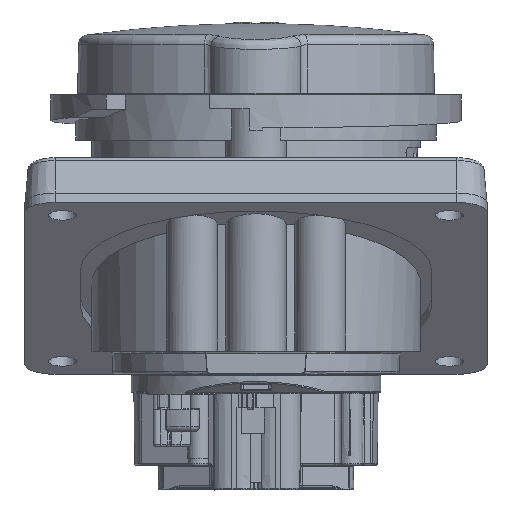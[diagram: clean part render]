
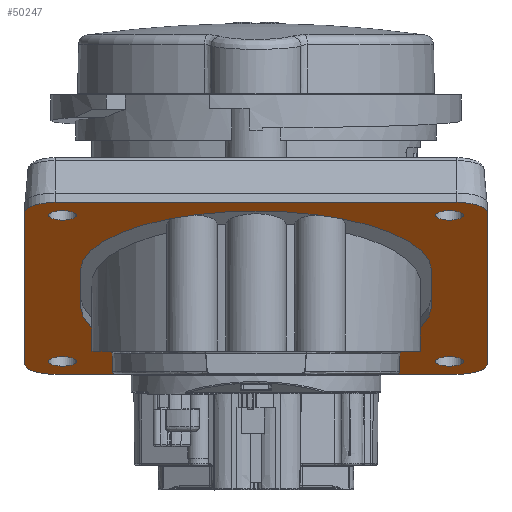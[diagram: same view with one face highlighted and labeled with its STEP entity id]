
A CAD part, front view. The second image highlights one B-rep face of the part: STEP entity #50247.
In plain terms, the highlighted planar face has unit normal (0, -0.342, -0.94).
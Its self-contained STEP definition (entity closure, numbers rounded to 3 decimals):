
#652=CARTESIAN_POINT('',(0.,-12.43,15.896));
#653=DIRECTION('',(0.,0.342,0.94));
#654=DIRECTION('',(-1.,0.,0.));
#655=AXIS2_PLACEMENT_3D('',#652,#653,#654);
#667=DIRECTION('',(0.,-0.94,0.342));
#668=VECTOR('',#667,20.);
#669=CARTESIAN_POINT('',(-35.,6.364,9.055));
#670=LINE('22428',#669,#668);
#688=DIRECTION('',(0.,0.94,-0.342));
#689=VECTOR('',#688,20.);
#690=CARTESIAN_POINT('',(35.,-12.43,15.896));
#691=LINE('22402',#690,#689);
#695=CARTESIAN_POINT('',(0.,6.364,9.055));
#696=DIRECTION('',(0.,-0.342,-0.94));
#697=DIRECTION('',(-1.,0.,0.));
#698=AXIS2_PLACEMENT_3D('',#695,#696,#697);
#703=CARTESIAN_POINT('',(-40.,38.313,-2.573));
#704=DIRECTION('',(0.,0.342,0.94));
#705=DIRECTION('',(0.,0.94,-0.342));
#706=AXIS2_PLACEMENT_3D('',#703,#704,#705);
#711=CARTESIAN_POINT('',(-40.,-44.38,27.525));
#712=DIRECTION('',(0.,0.342,0.94));
#713=DIRECTION('',(-1.,0.,0.));
#714=AXIS2_PLACEMENT_3D('',#711,#712,#713);
#719=CARTESIAN_POINT('',(40.,-44.38,27.525));
#720=DIRECTION('',(0.,0.342,0.94));
#721=DIRECTION('',(0.,-0.94,0.342));
#722=AXIS2_PLACEMENT_3D('',#719,#720,#721);
#727=CARTESIAN_POINT('',(40.,38.313,-2.573));
#728=DIRECTION('',(0.,0.342,0.94));
#729=DIRECTION('',(1.,0.,0.));
#730=AXIS2_PLACEMENT_3D('',#727,#728,#729);
#735=CARTESIAN_POINT('',(-38.5,36.904,-2.06));
#736=DIRECTION('',(0.,-0.342,-0.94));
#737=DIRECTION('',(1.,0.,0.));
#738=AXIS2_PLACEMENT_3D('',#735,#736,#737);
#743=CARTESIAN_POINT('',(-38.5,36.904,-2.06));
#744=DIRECTION('',(0.,-0.342,-0.94));
#745=DIRECTION('',(-1.,0.,0.));
#746=AXIS2_PLACEMENT_3D('',#743,#744,#745);
#751=CARTESIAN_POINT('',(38.5,36.904,-2.06));
#752=DIRECTION('',(0.,-0.342,-0.94));
#753=DIRECTION('',(1.,0.,0.));
#754=AXIS2_PLACEMENT_3D('',#751,#752,#753);
#759=CARTESIAN_POINT('',(38.5,36.904,-2.06));
#760=DIRECTION('',(0.,-0.342,-0.94));
#761=DIRECTION('',(-1.,0.,0.));
#762=AXIS2_PLACEMENT_3D('',#759,#760,#761);
#767=CARTESIAN_POINT('',(38.5,-42.97,27.012));
#768=DIRECTION('',(0.,-0.342,-0.94));
#769=DIRECTION('',(1.,0.,0.));
#770=AXIS2_PLACEMENT_3D('',#767,#768,#769);
#775=CARTESIAN_POINT('',(38.5,-42.97,27.012));
#776=DIRECTION('',(0.,-0.342,-0.94));
#777=DIRECTION('',(-1.,0.,0.));
#778=AXIS2_PLACEMENT_3D('',#775,#776,#777);
#783=CARTESIAN_POINT('',(-38.5,-42.97,27.012));
#784=DIRECTION('',(0.,-0.342,-0.94));
#785=DIRECTION('',(1.,0.,0.));
#786=AXIS2_PLACEMENT_3D('',#783,#784,#785);
#791=CARTESIAN_POINT('',(-38.5,-42.97,27.012));
#792=DIRECTION('',(0.,-0.342,-0.94));
#793=DIRECTION('',(-1.,0.,0.));
#794=AXIS2_PLACEMENT_3D('',#791,#792,#793);
#863=DIRECTION('',(1.,0.,0.));
#864=VECTOR('',#863,80.);
#865=CARTESIAN_POINT('',(-40.,43.951,-4.625));
#866=LINE('22416',#865,#864);
#913=DIRECTION('',(0.,-0.94,0.342));
#914=VECTOR('',#913,88.);
#915=CARTESIAN_POINT('',(46.,38.313,-2.573));
#916=LINE('22414',#915,#914);
#963=DIRECTION('',(-1.,0.,0.));
#964=VECTOR('',#963,80.);
#965=CARTESIAN_POINT('',(40.,-50.018,29.577));
#966=LINE('22412',#965,#964);
#1013=DIRECTION('',(0.,0.94,-0.342));
#1014=VECTOR('',#1013,88.);
#1015=CARTESIAN_POINT('',(-46.,-44.38,27.525));
#1016=LINE('22410',#1015,#1014);
#44510=CARTESIAN_POINT('',(35.,6.364,9.055));
#44511=VERTEX_POINT('',#44510);
#44512=CARTESIAN_POINT('',(-35.,6.364,9.055));
#44513=VERTEX_POINT('',#44512);
#44514=CARTESIAN_POINT('',(35.,-12.43,15.896));
#44515=VERTEX_POINT('',#44514);
#44516=CARTESIAN_POINT('',(-40.,43.951,
-4.625));
#44517=CARTESIAN_POINT('',(-46.,38.313,-2.573));
#44518=VERTEX_POINT('',#44516);
#44519=VERTEX_POINT('',#44517);
#44520=CARTESIAN_POINT('',(-46.,-44.38,27.525));
#44521=VERTEX_POINT('',#44520);
#44522=CARTESIAN_POINT('',(-40.,-50.018,
29.577));
#44523=VERTEX_POINT('',#44522);
#44524=CARTESIAN_POINT('',(40.,-50.018,
29.577));
#44525=VERTEX_POINT('',#44524);
#44526=CARTESIAN_POINT('',(46.,-44.38,27.525));
#44527=VERTEX_POINT('',#44526);
#44528=CARTESIAN_POINT('',(46.,38.313,-2.573));
#44529=VERTEX_POINT('',#44528);
#44530=CARTESIAN_POINT('',(40.,43.951,
-4.625));
#44531=VERTEX_POINT('',#44530);
#44532=CARTESIAN_POINT('',(-35.75,36.904,-2.06));
#44533=CARTESIAN_POINT('',(-41.25,36.904,-2.06));
#44534=VERTEX_POINT('',#44532);
#44535=VERTEX_POINT('',#44533);
#44536=CARTESIAN_POINT('',(41.25,36.904,-2.06));
#44537=CARTESIAN_POINT('',(35.75,36.904,-2.06));
#44538=VERTEX_POINT('',#44536);
#44539=VERTEX_POINT('',#44537);
#44540=CARTESIAN_POINT('',(41.25,-42.97,27.012));
#44541=CARTESIAN_POINT('',(35.75,-42.97,27.012));
#44542=VERTEX_POINT('',#44540);
#44543=VERTEX_POINT('',#44541);
#44544=CARTESIAN_POINT('',(-35.75,-42.97,27.012));
#44545=CARTESIAN_POINT('',(-41.25,-42.97,27.012));
#44546=VERTEX_POINT('',#44544);
#44547=VERTEX_POINT('',#44545);
#44548=CARTESIAN_POINT('',(-35.,-12.43,15.896));
#44549=VERTEX_POINT('',#44548);
#50194=CARTESIAN_POINT('',(0.,-3.033,12.476));
#50195=DIRECTION('',(0.,0.342,0.94));
#50196=DIRECTION('',(1.,0.,0.));
#50197=AXIS2_PLACEMENT_3D('',#50194,#50195,#50196);
#50198=PLANE('28979',#50197);
#50200=ORIENTED_EDGE('22409',*,*,#50199,.T.);
#50202=ORIENTED_EDGE('22410',*,*,#50201,.F.);
#50204=ORIENTED_EDGE('22411',*,*,#50203,.T.);
#50206=ORIENTED_EDGE('22412',*,*,#50205,.F.);
#50208=ORIENTED_EDGE('22413',*,*,#50207,.T.);
#50210=ORIENTED_EDGE('22414',*,*,#50209,.F.);
#50212=ORIENTED_EDGE('22415',*,*,#50211,.T.);
#50214=ORIENTED_EDGE('22416',*,*,#50213,.F.);
#50215=EDGE_LOOP('28979',(#50200,#50202,#50204,#50206,#50208,#50210,#50212,
#50214));
#50216=FACE_OUTER_BOUND('28979',#50215,.F.);
#50217=ORIENTED_EDGE('31515',*,*,#50110,.F.);
#50218=ORIENTED_EDGE('22428',*,*,#50125,.F.);
#50219=ORIENTED_EDGE('22399',*,*,#50151,.T.);
#50220=ORIENTED_EDGE('22402',*,*,#50176,.F.);
#50221=EDGE_LOOP('28979',(#50217,#50218,#50219,#50220));
#50222=FACE_BOUND('28979',#50221,.F.);
#50224=ORIENTED_EDGE('22417',*,*,#50223,.T.);
#50226=ORIENTED_EDGE('22418',*,*,#50225,.T.);
#50227=EDGE_LOOP('28979',(#50224,#50226));
#50228=FACE_BOUND('28979',#50227,.F.);
#50230=ORIENTED_EDGE('22419',*,*,#50229,.T.);
#50232=ORIENTED_EDGE('22420',*,*,#50231,.T.);
#50233=EDGE_LOOP('28979',(#50230,#50232));
#50234=FACE_BOUND('28979',#50233,.F.);
#50236=ORIENTED_EDGE('22421',*,*,#50235,.T.);
#50238=ORIENTED_EDGE('22422',*,*,#50237,.T.);
#50239=EDGE_LOOP('28979',(#50236,#50238));
#50240=FACE_BOUND('28979',#50239,.F.);
#50242=ORIENTED_EDGE('22423',*,*,#50241,.T.);
#50244=ORIENTED_EDGE('22424',*,*,#50243,.T.);
#50245=EDGE_LOOP('28979',(#50242,#50244));
#50246=FACE_BOUND('28979',#50245,.F.);
#656=CIRCLE('31515',#655,35.);
#699=CIRCLE('22399',#698,35.);
#707=CIRCLE('22409',#706,6.);
#715=CIRCLE('22411',#714,6.);
#723=CIRCLE('22413',#722,6.);
#731=CIRCLE('22415',#730,6.);
#739=CIRCLE('22417',#738,2.75);
#747=CIRCLE('22418',#746,2.75);
#755=CIRCLE('22419',#754,2.75);
#763=CIRCLE('22420',#762,2.75);
#771=CIRCLE('22421',#770,2.75);
#779=CIRCLE('22422',#778,2.75);
#787=CIRCLE('22423',#786,2.75);
#795=CIRCLE('22424',#794,2.75);
#50110=EDGE_CURVE('31515',#44549,#44515,#656,.T.);
#50125=EDGE_CURVE('22428',#44513,#44549,#670,.T.);
#50151=EDGE_CURVE('22399',#44513,#44511,#699,.T.);
#50176=EDGE_CURVE('22402',#44515,#44511,#691,.T.);
#50199=EDGE_CURVE('22409',#44518,#44519,#707,.T.);
#50201=EDGE_CURVE('22410',#44521,#44519,#1016,.T.);
#50203=EDGE_CURVE('22411',#44521,#44523,#715,.T.);
#50205=EDGE_CURVE('22412',#44525,#44523,#966,.T.);
#50207=EDGE_CURVE('22413',#44525,#44527,#723,.T.);
#50209=EDGE_CURVE('22414',#44529,#44527,#916,.T.);
#50211=EDGE_CURVE('22415',#44529,#44531,#731,.T.);
#50213=EDGE_CURVE('22416',#44518,#44531,#866,.T.);
#50223=EDGE_CURVE('22417',#44534,#44535,#739,.T.);
#50225=EDGE_CURVE('22418',#44535,#44534,#747,.T.);
#50229=EDGE_CURVE('22419',#44538,#44539,#755,.T.);
#50231=EDGE_CURVE('22420',#44539,#44538,#763,.T.);
#50235=EDGE_CURVE('22421',#44542,#44543,#771,.T.);
#50237=EDGE_CURVE('22422',#44543,#44542,#779,.T.);
#50241=EDGE_CURVE('22423',#44546,#44547,#787,.T.);
#50243=EDGE_CURVE('22424',#44547,#44546,#795,.T.);
#50247=ADVANCED_FACE('28979',(#50216,#50222,#50228,#50234,#50240,#50246),#50198,
.F.);
